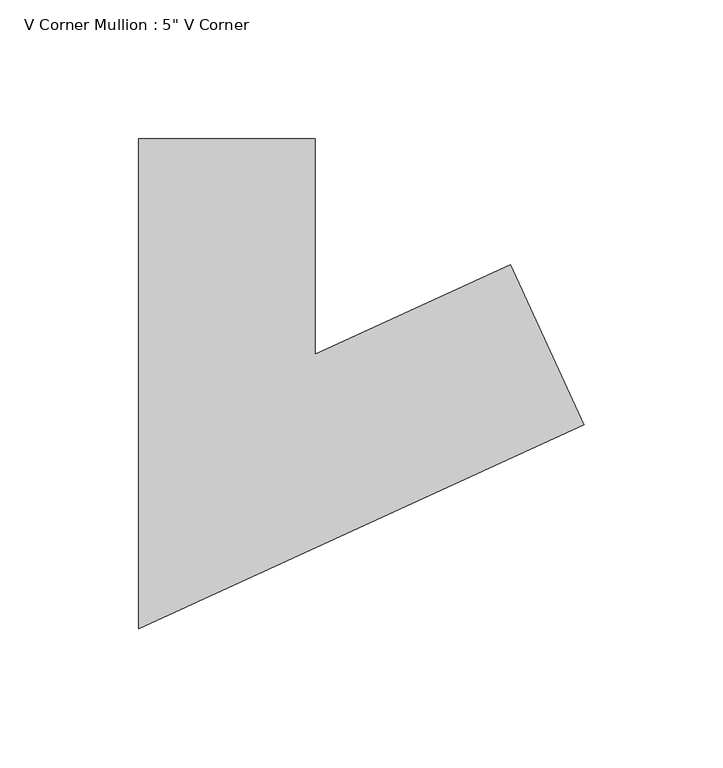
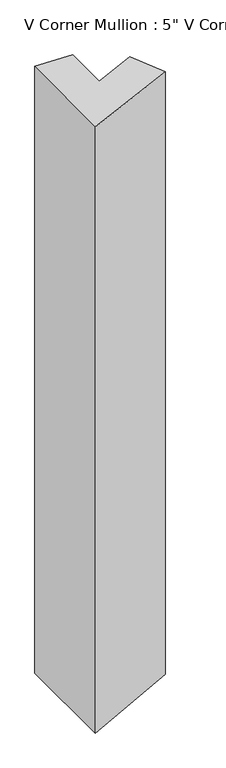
"""IFC4 building model written with IfcOpenShell, lengths in millimetres: member geometry."""

from ifc_helpers import new_model, si_unit, origin, place, context, project, spatial, faceted_brep, source, transform, mapped, element, save


def member_0d4095d7(model_context):
    return source(origin(), model_context, "Body", "Brep", [
        faceted_brep([(61.49523, 18.2208415, -1.1174032), (87.9205542, -39.5195451, -1.5975663), (87.9205542, -39.5195451, -1074.8301206), (61.49523, 18.2208415, -1075.4845256), (-9.0228811, -14.0523047, 0.1639509), (-9.0228811, -14.0523047, -1077.2308581), (-9.0228811, 63.5, 0.1639509), (-9.0228811, 63.5, -1077.2308581), (-72.5228811, 63.5, 1.3177819), (-72.5228811, 63.5, -1078.8033919), (-72.5228811, -112.9476953, 1.3177819), (-72.5228811, -112.9476953, -1078.8033919)], [[[0, 1, 2, 3]], [[4, 0, 3, 5]], [[6, 4, 5, 7]], [[8, 6, 7, 9]], [[10, 8, 9, 11]], [[1, 10, 11, 2]], [[1, 0, 4, 6, 8, 10]], [[2, 11, 9, 7, 5, 3]]]),
    ])


if __name__ == "__main__":
    model = new_model("IFC4")
    model_context = context("Model", 3, world=origin())
    ifc_project = project(units=[si_unit("LENGTHUNIT", "METRE", prefix="MILLI")], contexts=[model_context])
    site = spatial("IfcSite", under=ifc_project)
    building = spatial("IfcBuilding", under=site)
    placement = place(None, origin())
    member_shape = member_0d4095d7(model_context)
    element("IfcMember", 1, ObjectType="V Corner Mullion : 5\" V Corner", at=placement, inside=building, context=model_context, shape_type="MappedRepresentation", body=[
        mapped(member_shape, transform((0.0, 0.0, 0.0), x_axis=(1.0, 0.0, 0.0), y_axis=(0.0, 1.0, 0.0), z_axis=(0.0, 0.0, 1.0))),
    ])
    save(model, "model.ifc")
